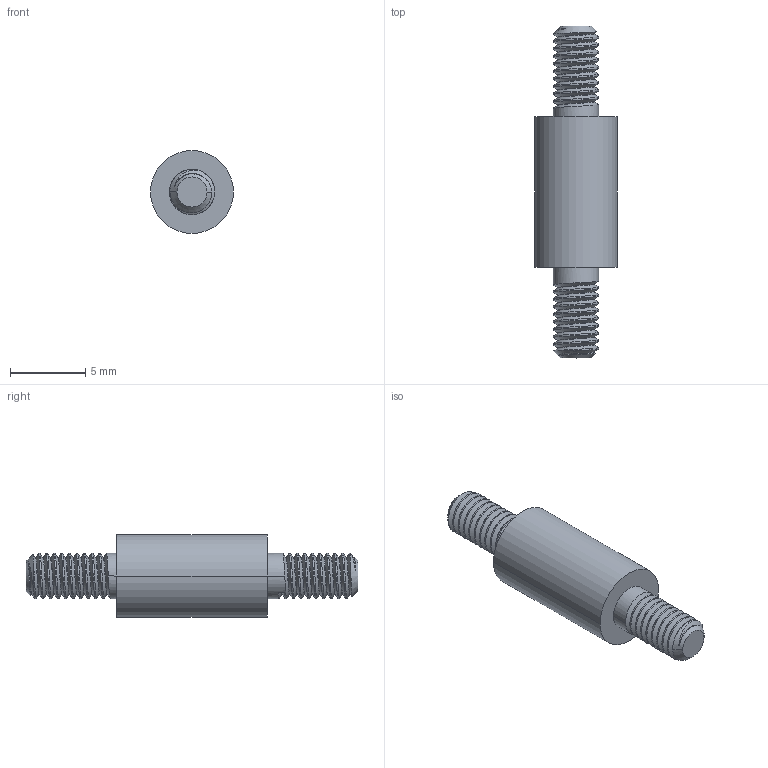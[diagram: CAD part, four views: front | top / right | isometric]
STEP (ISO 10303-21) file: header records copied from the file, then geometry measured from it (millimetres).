
FILE_DESCRIPTION (( 'STEP AP214' ), '1' );
FILE_NAME ('PCNN-10.STEP', '2014-12-30T11:05:42', ( 'Tester2' ), ( '' ), 'SwSTEP 2.0', 'SolidWorks 2012', '' );
FILE_SCHEMA (( 'AUTOMOTIVE_DESIGN' ));
Length unit declared in the file: millimetre
Products named in the file (1): PCNN-10
Bounding box: 5.5 x 22 x 5.5 mm (x, y, z)
Volume: 308.6 mm3; surface area: 376.8 mm2
Topology: 1 solids, 1 shells, 59 faces, 164 edges, 109 vertices
Faces by surface type: cylinder 42, plane 6, bspline 6, cone 5
Entity records: 5476 total; most frequent: CARTESIAN_POINT 3784, ORIENTED_EDGE 328, DIRECTION 185, EDGE_CURVE 164, VERTEX_POINT 109, AXIS2_PLACEMENT_3D 69, EDGE_LOOP 61, FACE_OUTER_BOUND 59
